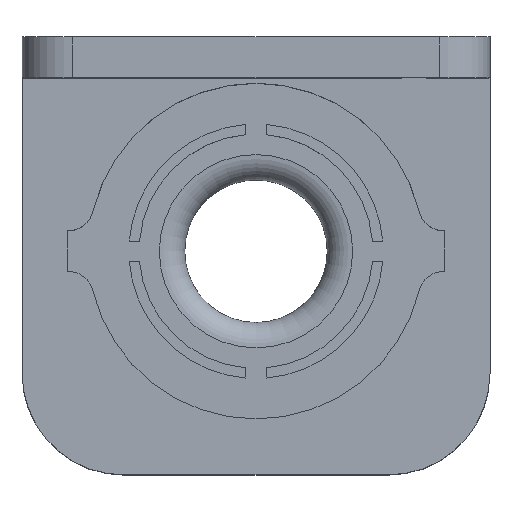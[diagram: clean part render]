
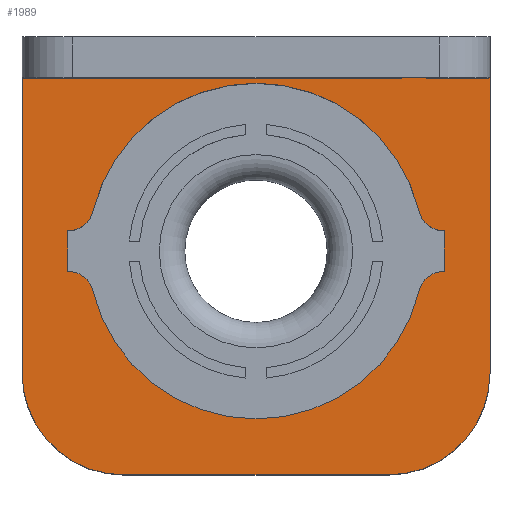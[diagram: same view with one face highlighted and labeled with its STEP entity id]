
A CAD part, top view. The second image highlights one B-rep face of the part: STEP entity #1989.
In plain terms, the highlighted planar face has unit normal (0, 0, 1).
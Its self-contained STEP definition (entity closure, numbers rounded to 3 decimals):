
#200=FACE_BOUND('',#684,.T.);
#203=PLANE('',#2135);
#252=LINE('',#2625,#406);
#253=LINE('',#2627,#407);
#254=LINE('',#2629,#408);
#255=LINE('',#2631,#409);
#256=LINE('',#2633,#410);
#257=LINE('',#2635,#411);
#258=LINE('',#2637,#412);
#259=LINE('',#2640,#413);
#260=LINE('',#2642,#414);
#261=LINE('',#2644,#415);
#262=LINE('',#2646,#416);
#263=LINE('',#2654,#417);
#264=LINE('',#2656,#418);
#265=LINE('',#2658,#419);
#406=VECTOR('',#2276,10.);
#407=VECTOR('',#2277,10.);
#408=VECTOR('',#2278,10.);
#409=VECTOR('',#2279,10.);
#410=VECTOR('',#2280,10.);
#411=VECTOR('',#2281,10.);
#412=VECTOR('',#2282,10.);
#413=VECTOR('',#2285,10.);
#414=VECTOR('',#2286,10.);
#415=VECTOR('',#2287,10.);
#416=VECTOR('',#2288,10.);
#417=VECTOR('',#2295,10.);
#418=VECTOR('',#2296,10.);
#419=VECTOR('',#2297,10.);
#566=FACE_OUTER_BOUND('',#683,.T.);
#683=EDGE_LOOP('',(#1400,#1401,#1402,#1403,#1404,#1405,#1406,#1407,#1408,
#1409));
#684=EDGE_LOOP('',(#1410,#1411,#1412,#1413,#1414,#1415,#1416,#1417,#1418,
#1419,#1420,#1421));
#810=CIRCLE('',#2132,2.5);
#811=CIRCLE('',#2134,16.5);
#812=CIRCLE('',#2136,10.);
#813=CIRCLE('',#2137,10.);
#814=CIRCLE('',#2138,2.5);
#815=CIRCLE('',#2139,16.5);
#816=CIRCLE('',#2140,2.5);
#817=CIRCLE('',#2141,2.5);
#863=VERTEX_POINT('',#2611);
#864=VERTEX_POINT('',#2612);
#865=VERTEX_POINT('',#2617);
#866=VERTEX_POINT('',#2621);
#867=VERTEX_POINT('',#2622);
#868=VERTEX_POINT('',#2624);
#869=VERTEX_POINT('',#2626);
#870=VERTEX_POINT('',#2628);
#871=VERTEX_POINT('',#2630);
#872=VERTEX_POINT('',#2632);
#873=VERTEX_POINT('',#2634);
#874=VERTEX_POINT('',#2636);
#875=VERTEX_POINT('',#2638);
#876=VERTEX_POINT('',#2641);
#877=VERTEX_POINT('',#2643);
#878=VERTEX_POINT('',#2645);
#879=VERTEX_POINT('',#2647);
#880=VERTEX_POINT('',#2649);
#881=VERTEX_POINT('',#2651);
#882=VERTEX_POINT('',#2653);
#883=VERTEX_POINT('',#2655);
#884=VERTEX_POINT('',#2657);
#1074=EDGE_CURVE('',#863,#864,#810,.T.);
#1077=EDGE_CURVE('',#865,#864,#811,.T.);
#1079=EDGE_CURVE('',#866,#867,#812,.T.);
#1080=EDGE_CURVE('',#866,#868,#252,.F.);
#1081=EDGE_CURVE('',#868,#869,#253,.T.);
#1082=EDGE_CURVE('',#869,#870,#254,.T.);
#1083=EDGE_CURVE('',#870,#871,#255,.T.);
#1084=EDGE_CURVE('',#872,#871,#256,.T.);
#1085=EDGE_CURVE('',#872,#873,#257,.T.);
#1086=EDGE_CURVE('',#873,#874,#258,.F.);
#1087=EDGE_CURVE('',#875,#874,#813,.T.);
#1088=EDGE_CURVE('',#875,#867,#259,.F.);
#1089=EDGE_CURVE('',#863,#876,#260,.T.);
#1090=EDGE_CURVE('',#876,#877,#261,.T.);
#1091=EDGE_CURVE('',#877,#878,#262,.T.);
#1092=EDGE_CURVE('',#879,#878,#814,.T.);
#1093=EDGE_CURVE('',#879,#880,#815,.T.);
#1094=EDGE_CURVE('',#881,#880,#816,.T.);
#1095=EDGE_CURVE('',#881,#882,#263,.T.);
#1096=EDGE_CURVE('',#882,#883,#264,.T.);
#1097=EDGE_CURVE('',#883,#884,#265,.T.);
#1098=EDGE_CURVE('',#865,#884,#817,.T.);
#1400=ORIENTED_EDGE('',*,*,#1079,.F.);
#1401=ORIENTED_EDGE('',*,*,#1080,.T.);
#1402=ORIENTED_EDGE('',*,*,#1081,.T.);
#1403=ORIENTED_EDGE('',*,*,#1082,.T.);
#1404=ORIENTED_EDGE('',*,*,#1083,.T.);
#1405=ORIENTED_EDGE('',*,*,#1084,.F.);
#1406=ORIENTED_EDGE('',*,*,#1085,.T.);
#1407=ORIENTED_EDGE('',*,*,#1086,.T.);
#1408=ORIENTED_EDGE('',*,*,#1087,.F.);
#1409=ORIENTED_EDGE('',*,*,#1088,.T.);
#1410=ORIENTED_EDGE('',*,*,#1074,.F.);
#1411=ORIENTED_EDGE('',*,*,#1089,.T.);
#1412=ORIENTED_EDGE('',*,*,#1090,.T.);
#1413=ORIENTED_EDGE('',*,*,#1091,.T.);
#1414=ORIENTED_EDGE('',*,*,#1092,.F.);
#1415=ORIENTED_EDGE('',*,*,#1093,.T.);
#1416=ORIENTED_EDGE('',*,*,#1094,.F.);
#1417=ORIENTED_EDGE('',*,*,#1095,.T.);
#1418=ORIENTED_EDGE('',*,*,#1096,.T.);
#1419=ORIENTED_EDGE('',*,*,#1097,.T.);
#1420=ORIENTED_EDGE('',*,*,#1098,.F.);
#1421=ORIENTED_EDGE('',*,*,#1077,.T.);
#1989=ADVANCED_FACE('',(#566,#200),#203,.T.);
#2132=AXIS2_PLACEMENT_3D('',#2613,#2263,#2264);
#2134=AXIS2_PLACEMENT_3D('',#2618,#2269,#2270);
#2135=AXIS2_PLACEMENT_3D('',#2620,#2272,#2273);
#2136=AXIS2_PLACEMENT_3D('',#2623,#2274,#2275);
#2137=AXIS2_PLACEMENT_3D('',#2639,#2283,#2284);
#2138=AXIS2_PLACEMENT_3D('',#2648,#2289,#2290);
#2139=AXIS2_PLACEMENT_3D('',#2650,#2291,#2292);
#2140=AXIS2_PLACEMENT_3D('',#2652,#2293,#2294);
#2141=AXIS2_PLACEMENT_3D('',#2659,#2298,#2299);
#2263=DIRECTION('center_axis',(0.,0.,-1.));
#2264=DIRECTION('ref_axis',(0.618,0.786,0.));
#2269=DIRECTION('center_axis',(0.,0.,-1.));
#2270=DIRECTION('ref_axis',(1.,0.,0.));
#2272=DIRECTION('center_axis',(0.,0.,1.));
#2273=DIRECTION('ref_axis',(1.,0.,0.));
#2274=DIRECTION('center_axis',(0.,0.,-1.));
#2275=DIRECTION('ref_axis',(0.707,-0.707,0.));
#2276=DIRECTION('',(0.,-1.,0.));
#2277=DIRECTION('',(-1.,0.,0.));
#2278=DIRECTION('',(0.,1.,0.));
#2279=DIRECTION('',(-1.,0.,0.));
#2280=DIRECTION('',(0.,1.,0.));
#2281=DIRECTION('',(-1.,0.,0.));
#2282=DIRECTION('',(0.,1.,0.));
#2283=DIRECTION('center_axis',(0.,0.,-1.));
#2284=DIRECTION('ref_axis',(-0.707,-0.707,0.));
#2285=DIRECTION('',(-1.,0.,0.));
#2286=DIRECTION('',(-1.,0.,0.));
#2287=DIRECTION('',(0.,1.,0.));
#2288=DIRECTION('',(1.,0.,0.));
#2289=DIRECTION('center_axis',(0.,0.,-1.));
#2290=DIRECTION('ref_axis',(0.618,-0.786,0.));
#2291=DIRECTION('center_axis',(0.,0.,-1.));
#2292=DIRECTION('ref_axis',(1.,0.,0.));
#2293=DIRECTION('center_axis',(0.,0.,-1.));
#2294=DIRECTION('ref_axis',(-0.618,-0.786,0.));
#2295=DIRECTION('',(1.,0.,0.));
#2296=DIRECTION('',(0.,-1.,0.));
#2297=DIRECTION('',(-1.,0.,0.));
#2298=DIRECTION('center_axis',(0.,0.,-1.));
#2299=DIRECTION('ref_axis',(-0.618,0.786,0.));
#2611=CARTESIAN_POINT('',(-18.459,-4.,14.));
#2612=CARTESIAN_POINT('',(-16.031,-5.908,14.));
#2613=CARTESIAN_POINT('Origin',(-18.459,-6.5,14.));
#2617=CARTESIAN_POINT('',(16.031,-5.908,14.));
#2618=CARTESIAN_POINT('Origin',(0.,-2.,14.));
#2620=CARTESIAN_POINT('Origin',(0.,0.,14.));
#2621=CARTESIAN_POINT('',(23.,-14.,14.));
#2622=CARTESIAN_POINT('',(13.,-24.,14.));
#2623=CARTESIAN_POINT('Origin',(13.,-14.,14.));
#2624=CARTESIAN_POINT('',(23.,15.,14.));
#2625=CARTESIAN_POINT('',(23.,-9.5,14.));
#2626=CARTESIAN_POINT('',(16.765,15.,14.));
#2627=CARTESIAN_POINT('',(-9.,15.,14.));
#2628=CARTESIAN_POINT('',(16.765,15.2,14.));
#2629=CARTESIAN_POINT('',(16.765,15.,14.));
#2630=CARTESIAN_POINT('',(14.319,15.2,14.));
#2631=CARTESIAN_POINT('',(-23.,15.2,14.));
#2632=CARTESIAN_POINT('',(14.319,15.,14.));
#2633=CARTESIAN_POINT('',(14.319,15.,14.));
#2634=CARTESIAN_POINT('',(-23.,15.,14.));
#2635=CARTESIAN_POINT('',(-9.,15.,14.));
#2636=CARTESIAN_POINT('',(-23.,-14.,14.));
#2637=CARTESIAN_POINT('',(-23.,9.5,14.));
#2638=CARTESIAN_POINT('',(-13.,-24.,14.));
#2639=CARTESIAN_POINT('Origin',(-13.,-14.,14.));
#2640=CARTESIAN_POINT('',(-9.,-24.,14.));
#2641=CARTESIAN_POINT('',(-18.5,-4.,14.));
#2642=CARTESIAN_POINT('',(-8.189,-4.,14.));
#2643=CARTESIAN_POINT('',(-18.5,0.,14.));
#2644=CARTESIAN_POINT('',(-18.5,-2.,14.));
#2645=CARTESIAN_POINT('',(-18.459,0.,14.));
#2646=CARTESIAN_POINT('',(-9.25,0.,14.));
#2647=CARTESIAN_POINT('',(-16.031,1.908,14.));
#2648=CARTESIAN_POINT('Origin',(-18.459,2.5,14.));
#2649=CARTESIAN_POINT('',(16.031,1.908,14.));
#2650=CARTESIAN_POINT('Origin',(0.,-2.,14.));
#2651=CARTESIAN_POINT('',(18.459,0.,14.));
#2652=CARTESIAN_POINT('Origin',(18.459,2.5,14.));
#2653=CARTESIAN_POINT('',(18.5,0.,14.));
#2654=CARTESIAN_POINT('',(8.189,0.,14.));
#2655=CARTESIAN_POINT('',(18.5,-4.,14.));
#2656=CARTESIAN_POINT('',(18.5,0.,14.));
#2657=CARTESIAN_POINT('',(18.459,-4.,14.));
#2658=CARTESIAN_POINT('',(9.25,-4.,14.));
#2659=CARTESIAN_POINT('Origin',(18.459,-6.5,14.));
